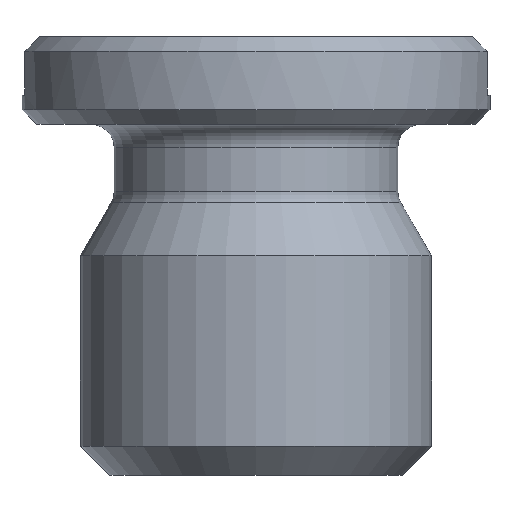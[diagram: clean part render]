
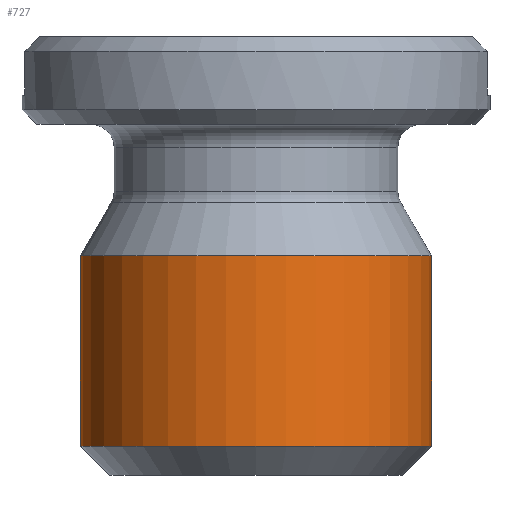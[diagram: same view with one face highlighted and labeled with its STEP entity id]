
A CAD part, front view. The second image highlights one B-rep face of the part: STEP entity #727.
In plain terms, the highlighted cylindrical face has radius 6 mm (diameter 12 mm), a partial arc.
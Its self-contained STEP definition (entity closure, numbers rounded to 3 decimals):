
#4 = DIRECTION ( 'NONE',  ( 0., 0., -1. ) ) ;
#42 = CARTESIAN_POINT ( 'NONE',  ( -6., 0., -11. ) ) ;
#63 = FACE_OUTER_BOUND ( 'NONE', #825, .T. ) ;
#73 = AXIS2_PLACEMENT_3D ( 'NONE', #812, #4, #703 ) ;
#95 = DIRECTION ( 'NONE',  ( 0., 0., -1. ) ) ;
#110 = VERTEX_POINT ( 'NONE', #42 ) ;
#133 = AXIS2_PLACEMENT_3D ( 'NONE', #1014, #912, #632 ) ;
#145 = VERTEX_POINT ( 'NONE', #766 ) ;
#182 = EDGE_CURVE ( 'NONE', #145, #1062, #492, .T. ) ;
#198 = EDGE_CURVE ( 'NONE', #290, #110, #568, .T. ) ;
#211 = AXIS2_PLACEMENT_3D ( 'NONE', #723, #367, #728 ) ;
#243 = CYLINDRICAL_SURFACE ( 'NONE', #73, 6. ) ;
#250 = LINE ( 'NONE', #610, #570 ) ;
#266 = ORIENTED_EDGE ( 'NONE', *, *, #824, .F. ) ;
#290 = VERTEX_POINT ( 'NONE', #347 ) ;
#347 = CARTESIAN_POINT ( 'NONE',  ( 6., 0., -11. ) ) ;
#354 = ORIENTED_EDGE ( 'NONE', *, *, #182, .T. ) ;
#367 = DIRECTION ( 'NONE',  ( 0., 0., -1. ) ) ;
#451 = EDGE_CURVE ( 'NONE', #1062, #110, #463, .T. ) ;
#463 = LINE ( 'NONE', #905, #837 ) ;
#492 = CIRCLE ( 'NONE', #133, 6. ) ;
#568 = CIRCLE ( 'NONE', #211, 6. ) ;
#570 = VECTOR ( 'NONE', #1065, 1000. ) ;
#610 = CARTESIAN_POINT ( 'NONE',  ( 6., 0., -17.526 ) ) ;
#632 = DIRECTION ( 'NONE',  ( -1., 0., 0. ) ) ;
#667 = ORIENTED_EDGE ( 'NONE', *, *, #451, .T. ) ;
#691 = ORIENTED_EDGE ( 'NONE', *, *, #198, .F. ) ;
#703 = DIRECTION ( 'NONE',  ( -1., 0., 0. ) ) ;
#723 = CARTESIAN_POINT ( 'NONE',  ( 0., 0., -11. ) ) ;
#727 = ADVANCED_FACE ( 'NONE', ( #63 ), #243, .T. ) ;
#728 = DIRECTION ( 'NONE',  ( -1., 0., 0. ) ) ;
#766 = CARTESIAN_POINT ( 'NONE',  ( 6., 0., -4.492 ) ) ;
#812 = CARTESIAN_POINT ( 'NONE',  ( 0., 0., -17.526 ) ) ;
#824 = EDGE_CURVE ( 'NONE', #145, #290, #250, .T. ) ;
#825 = EDGE_LOOP ( 'NONE', ( #266, #354, #667, #691 ) ) ;
#837 = VECTOR ( 'NONE', #95, 1000. ) ;
#848 = CARTESIAN_POINT ( 'NONE',  ( -6., 0., -4.492 ) ) ;
#905 = CARTESIAN_POINT ( 'NONE',  ( -6., 0., -17.526 ) ) ;
#912 = DIRECTION ( 'NONE',  ( 0., 0., -1. ) ) ;
#1014 = CARTESIAN_POINT ( 'NONE',  ( 0., 0., -4.492 ) ) ;
#1062 = VERTEX_POINT ( 'NONE', #848 ) ;
#1065 = DIRECTION ( 'NONE',  ( 0., 0., -1. ) ) ;
